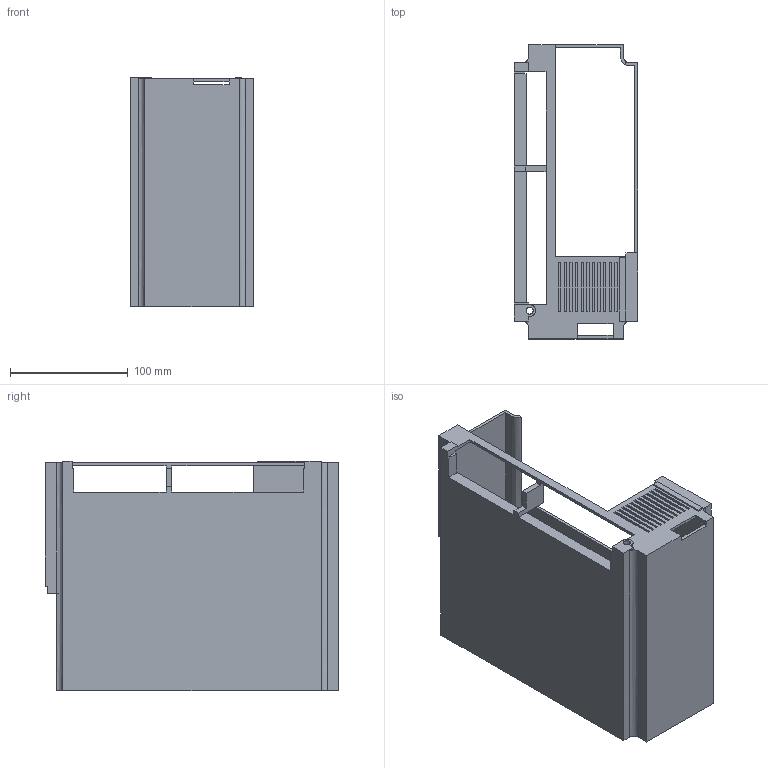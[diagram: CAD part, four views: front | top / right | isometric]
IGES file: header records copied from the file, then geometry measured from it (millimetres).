
Start section:  PTC IGES file: j4-500-case.igs
Global section: file name: j4-500-case.igs; native system: Pro/ENGINEER by Parametric Technology Corporation; preprocessor: 2010160; author: CV86875; organization: Unknown; date: 20121031.193934; units: millimetre
Bounding box: 105 x 250 x 195.2 mm (x, y, z)
Volume: 274181.3 mm3; surface area: 227032.4 mm2
Topology: 1 solids, 1 shells, 148 faces, 420 edges, 278 vertices
Faces by surface type: bspline 148
